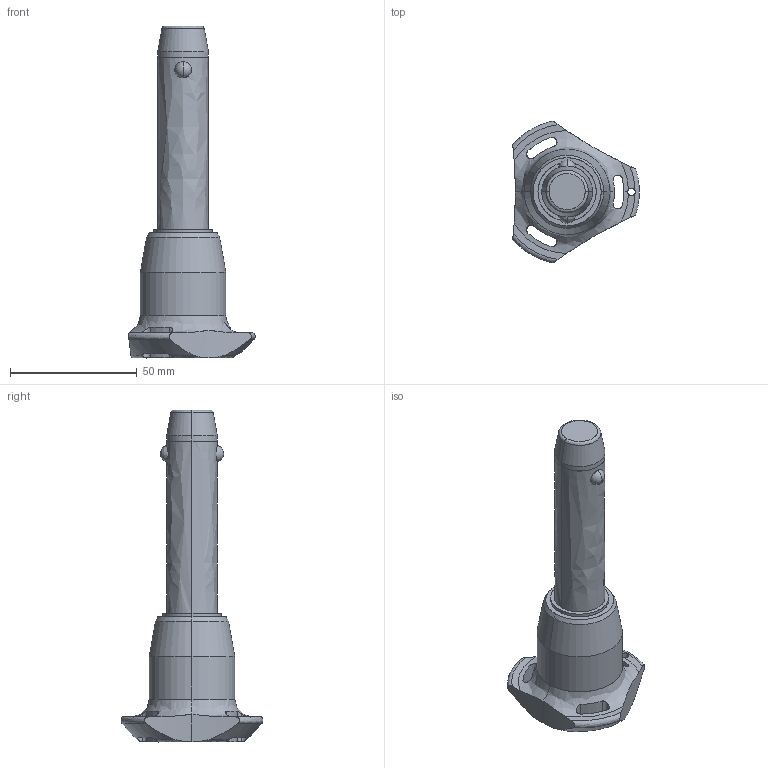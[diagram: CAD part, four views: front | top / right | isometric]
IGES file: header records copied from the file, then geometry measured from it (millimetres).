
Start section: SolidWorks IGES file using analytic representation for surfaces
Global section: file name: C:\Users\ianosborn\Desktop\QR1736_v2\QR1736_v2_20251115_IGES\QR1736.M20-060-T.igs; native system: SolidWorks 2019; preprocessor: SolidWorks 2019; author: IanOsborn; date: 251113.121111; units: millimetre
Bounding box: 50.04 x 56.02 x 131.2 mm (x, y, z)
Surface area: 14737.6 mm2 (no closed solid volume)
Topology: 0 solids, 0 shells, 68 faces, 1382 edges, 1378 vertices
Faces by surface type: revolution 52, bspline 16
